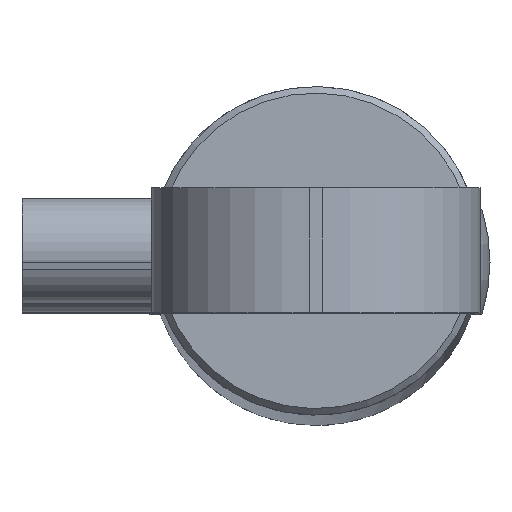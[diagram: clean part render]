
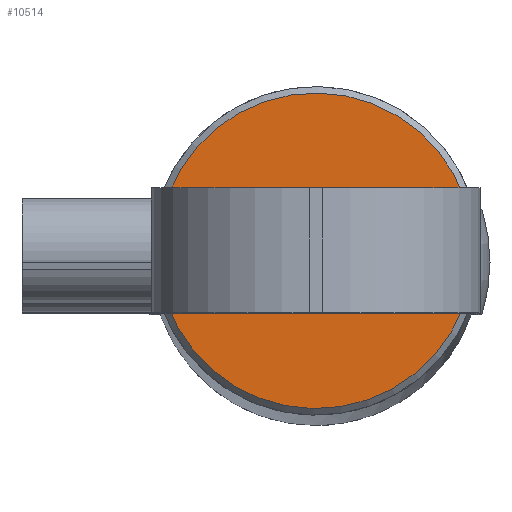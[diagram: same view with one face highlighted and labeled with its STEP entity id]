
A CAD part, top view. The second image highlights one B-rep face of the part: STEP entity #10514.
In plain terms, the highlighted planar face has unit normal (0, 0, 1) as drawn and (-1, 0, 0) by its records, which use the part's own axes.
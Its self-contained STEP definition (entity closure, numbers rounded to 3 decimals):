
#578 = DIRECTION ( 'NONE',  ( 0., 0., -1. ) ) ;
#1074 = ORIENTED_EDGE ( 'NONE', *, *, #12162, .T. ) ;
#2805 = FACE_OUTER_BOUND ( 'NONE', #10686, .T. ) ;
#6635 = CARTESIAN_POINT ( 'NONE',  ( 0., 0., 0. ) ) ;
#6639 = CIRCLE ( 'NONE', #10650, 24. ) ;
#7431 = CARTESIAN_POINT ( 'NONE',  ( 0., 0., 0. ) ) ;
#7579 = DIRECTION ( 'NONE',  ( 0., 0., -1. ) ) ;
#7879 = PLANE ( 'NONE',  #16419 ) ;
#8663 = DIRECTION ( 'NONE',  ( -1., 0., 0. ) ) ;
#8743 = CARTESIAN_POINT ( 'NONE',  ( 0., 0., 0. ) ) ;
#10514 = ADVANCED_FACE ( 'NONE', ( #2805 ), #7879, .F. ) ;
#10596 = VERTEX_POINT ( 'NONE', #12397 ) ;
#10650 = AXIS2_PLACEMENT_3D ( 'NONE', #8743, #8663, #7579 ) ;
#10686 = EDGE_LOOP ( 'NONE', ( #1074, #16223 ) ) ;
#10913 = CIRCLE ( 'NONE', #12755, 24. ) ;
#11665 = EDGE_CURVE ( 'NONE', #13649, #10596, #10913, .T. ) ;
#12162 = EDGE_CURVE ( 'NONE', #10596, #13649, #6639, .T. ) ;
#12397 = CARTESIAN_POINT ( 'NONE',  ( 0., 0., -24. ) ) ;
#12755 = AXIS2_PLACEMENT_3D ( 'NONE', #7431, #16373, #12778 ) ;
#12778 = DIRECTION ( 'NONE',  ( 0., 0., -1. ) ) ;
#12983 = DIRECTION ( 'NONE',  ( 1., 0., 0. ) ) ;
#13649 = VERTEX_POINT ( 'NONE', #15568 ) ;
#15568 = CARTESIAN_POINT ( 'NONE',  ( 0., 0., 24. ) ) ;
#16223 = ORIENTED_EDGE ( 'NONE', *, *, #11665, .T. ) ;
#16373 = DIRECTION ( 'NONE',  ( -1., 0., 0. ) ) ;
#16419 = AXIS2_PLACEMENT_3D ( 'NONE', #6635, #12983, #578 ) ;
